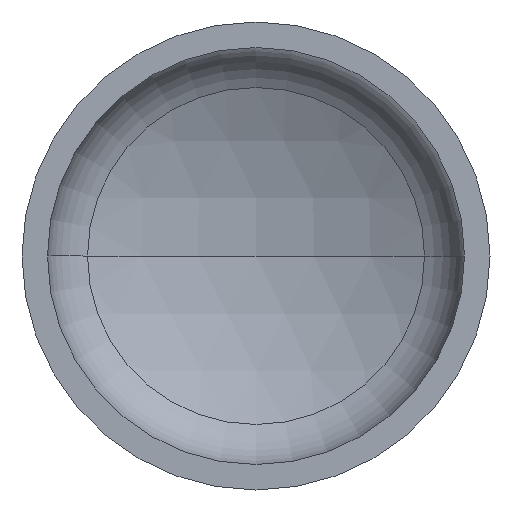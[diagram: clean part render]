
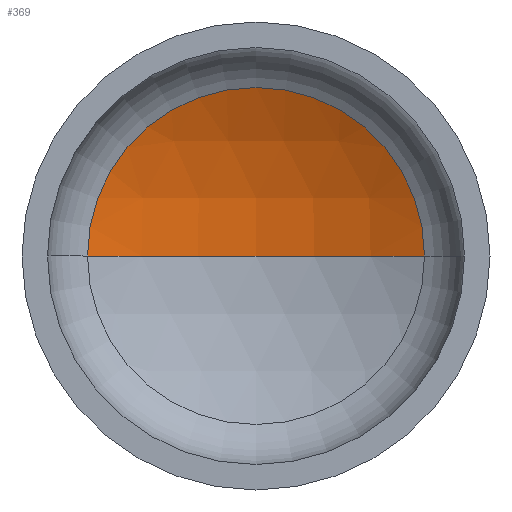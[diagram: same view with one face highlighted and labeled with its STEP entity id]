
A CAD part, front view. The second image highlights one B-rep face of the part: STEP entity #369.
In plain terms, the highlighted spherical face has radius 720 mm.
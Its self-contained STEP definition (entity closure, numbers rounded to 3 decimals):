
#5 = ORIENTED_EDGE ( 'NONE', *, *, #276, .F. ) ;
#12 = EDGE_LOOP ( 'NONE', ( #5, #170, #156 ) ) ;
#23 = SPHERICAL_SURFACE ( 'NONE', #266, 720. ) ;
#38 = AXIS2_PLACEMENT_3D ( 'NONE', #82, #83, #96 ) ;
#49 = CIRCLE ( 'NONE', #151, 720. ) ;
#53 = DIRECTION ( 'NONE',  ( -1., 0., 0. ) ) ;
#71 = CIRCLE ( 'NONE', #38, 720. ) ;
#77 = CARTESIAN_POINT ( 'NONE',  ( 324., 275.024, 0. ) ) ;
#82 = CARTESIAN_POINT ( 'NONE',  ( 0., -367.957, 0. ) ) ;
#83 = DIRECTION ( 'NONE',  ( 0., 0., 1. ) ) ;
#96 = DIRECTION ( 'NONE',  ( 1., 0., 0. ) ) ;
#97 = VERTEX_POINT ( 'NONE', #308 ) ;
#123 = DIRECTION ( 'NONE',  ( 0., -1., 0. ) ) ;
#138 = CARTESIAN_POINT ( 'NONE',  ( -324., 275.024, 0. ) ) ;
#146 = DIRECTION ( 'NONE',  ( -1., 0., 0. ) ) ;
#147 = FACE_OUTER_BOUND ( 'NONE', #12, .T. ) ;
#151 = AXIS2_PLACEMENT_3D ( 'NONE', #374, #377, #146 ) ;
#154 = VERTEX_POINT ( 'NONE', #138 ) ;
#156 = ORIENTED_EDGE ( 'NONE', *, *, #320, .T. ) ;
#170 = ORIENTED_EDGE ( 'NONE', *, *, #298, .T. ) ;
#201 = VERTEX_POINT ( 'NONE', #77 ) ;
#204 = AXIS2_PLACEMENT_3D ( 'NONE', #243, #123, #410 ) ;
#243 = CARTESIAN_POINT ( 'NONE',  ( 0., 275.024, 0. ) ) ;
#250 = CIRCLE ( 'NONE', #204, 324. ) ;
#266 = AXIS2_PLACEMENT_3D ( 'NONE', #288, #348, #53 ) ;
#276 = EDGE_CURVE ( 'NONE', #97, #154, #71, .T. ) ;
#288 = CARTESIAN_POINT ( 'NONE',  ( 0., -367.957, 0. ) ) ;
#298 = EDGE_CURVE ( 'NONE', #97, #201, #49, .T. ) ;
#308 = CARTESIAN_POINT ( 'NONE',  ( 0., 352.043, 0. ) ) ;
#320 = EDGE_CURVE ( 'NONE', #201, #154, #250, .T. ) ;
#348 = DIRECTION ( 'NONE',  ( 0., 0., -1. ) ) ;
#369 = ADVANCED_FACE ( 'NONE', ( #147 ), #23, .F. ) ;
#374 = CARTESIAN_POINT ( 'NONE',  ( 0., -367.957, 0. ) ) ;
#377 = DIRECTION ( 'NONE',  ( 0., 0., -1. ) ) ;
#410 = DIRECTION ( 'NONE',  ( 1., 0., 0. ) ) ;
